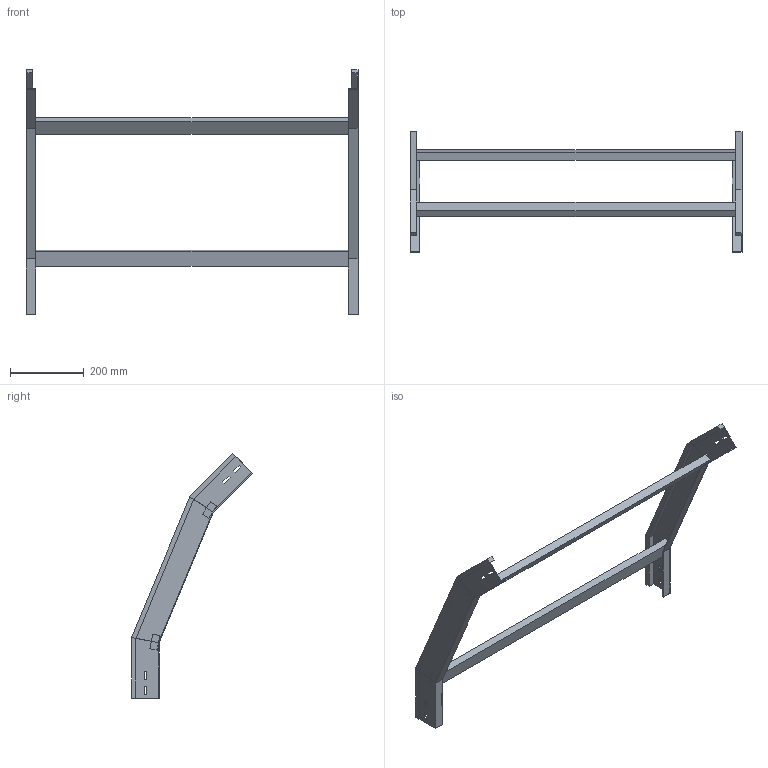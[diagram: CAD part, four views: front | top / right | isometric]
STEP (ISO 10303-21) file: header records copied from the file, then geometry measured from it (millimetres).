
FILE_DESCRIPTION (( 'STEP AP214' ), '1' );
FILE_NAME ('34B5C900.step', '2025-02-21T14:54:42', ( '' ), ( '' ), 'SwSTEP 2.0', 'SolidWorks 2023', '' );
FILE_SCHEMA (( 'AUTOMOTIVE_DESIGN' ));
Length unit declared in the file: millimetre
Products named in the file (3): TRAVERSINO_900; 34B5C900; LONGH.DISCESA_45°_H75_R500
Assembly tree (5 placements, depth 2):
  34B5C900
    LONGH.DISCESA_45°_H75_R500  x2
    TRAVERSINO_900  x3
Bounding box: 900 x 327.63 x 662.94 mm (x, y, z)
Volume: 2740400.1 mm3; surface area: 665298.9 mm2
Topology: 5 solids, 5 shells, 102 faces, 244 edges, 152 vertices
Faces by surface type: plane 102
Entity records: 1480 total; most frequent: CARTESIAN_POINT 244, ORIENTED_EDGE 232, DIRECTION 228, VECTOR 116, LINE 116, EDGE_CURVE 116, VERTEX_POINT 72, EDGE_LOOP 56
